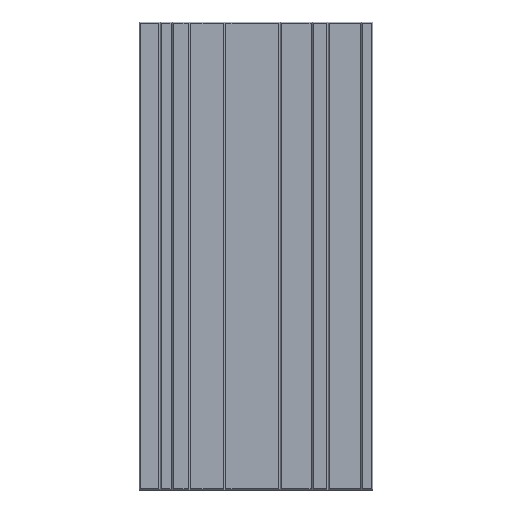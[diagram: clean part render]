
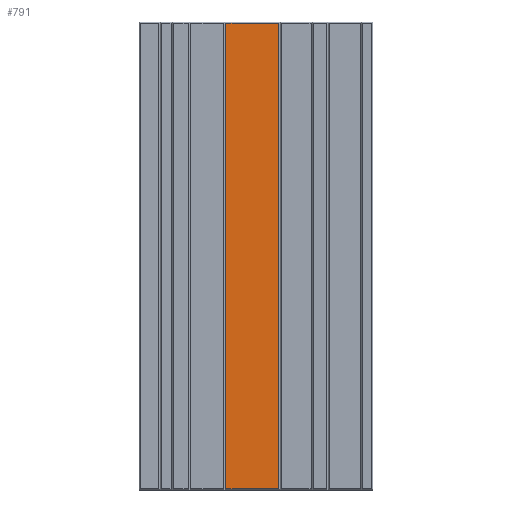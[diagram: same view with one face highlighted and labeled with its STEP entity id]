
A CAD part, top view. The second image highlights one B-rep face of the part: STEP entity #791.
In plain terms, the highlighted planar face has unit normal (0, 0, 1).
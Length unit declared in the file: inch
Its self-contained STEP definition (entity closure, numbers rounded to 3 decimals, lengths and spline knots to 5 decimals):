
#41=FACE_OUTER_BOUND('',#91,.T.);
#91=EDGE_LOOP('',(#603,#604,#605,#606));
#148=LINE('',#1171,#256);
#160=LINE('',#1196,#268);
#178=LINE('',#1232,#286);
#193=LINE('',#1257,#301);
#256=VECTOR('',#942,0.3937);
#268=VECTOR('',#960,0.3937);
#286=VECTOR('',#990,0.3937);
#301=VECTOR('',#1021,0.3937);
#359=VERTEX_POINT('',#1168);
#360=VERTEX_POINT('',#1170);
#368=VERTEX_POINT('',#1190);
#370=VERTEX_POINT('',#1194);
#424=EDGE_CURVE('',#360,#359,#148,.T.);
#436=EDGE_CURVE('',#368,#370,#160,.T.);
#454=EDGE_CURVE('',#368,#359,#178,.T.);
#469=EDGE_CURVE('',#360,#370,#193,.T.);
#603=ORIENTED_EDGE('',*,*,#424,.T.);
#604=ORIENTED_EDGE('',*,*,#454,.F.);
#605=ORIENTED_EDGE('',*,*,#436,.T.);
#606=ORIENTED_EDGE('',*,*,#469,.F.);
#741=PLANE('',#863);
#791=ADVANCED_FACE('',(#41),#741,.T.);
#863=AXIS2_PLACEMENT_3D('',#1256,#1019,#1020);
#942=DIRECTION('',(0.,-1.,0.));
#960=DIRECTION('',(0.,1.,0.));
#990=DIRECTION('',(-1.,0.,0.));
#1019=DIRECTION('center_axis',(0.,0.,1.));
#1020=DIRECTION('ref_axis',(1.,0.,0.));
#1021=DIRECTION('',(1.,0.,0.));
#1168=CARTESIAN_POINT('',(17.85515,0.27246,0.5));
#1170=CARTESIAN_POINT('',(17.85515,95.77246,0.5));
#1171=CARTESIAN_POINT('',(17.85515,21.02246,0.5));
#1190=CARTESIAN_POINT('',(28.7091,0.27246,0.5));
#1194=CARTESIAN_POINT('',(28.7091,95.77246,0.5));
#1196=CARTESIAN_POINT('',(28.7091,75.07941,0.5));
#1232=CARTESIAN_POINT('',(12.02728,0.27246,0.5));
#1256=CARTESIAN_POINT('Origin',(24.02728,48.02246,0.5));
#1257=CARTESIAN_POINT('',(36.02728,95.77246,0.5));
